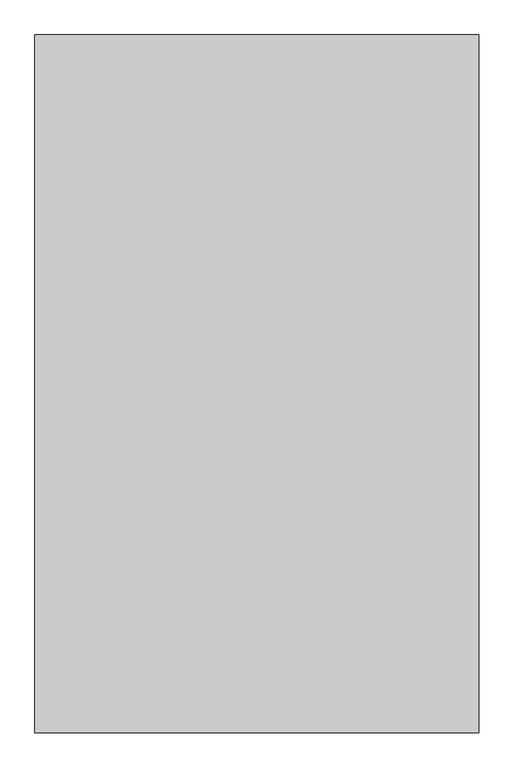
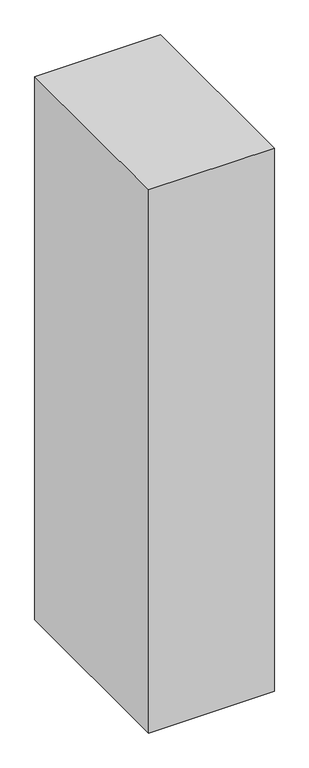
"""IFC4 building model written with IfcOpenShell, lengths in millimetres: column geometry, M_混凝土-矩形-柱 : RC柱70*110."""

from ifc_helpers import new_model, si_unit, frame, origin, place, context, project, spatial, polyline, outline, extrude, source, transform, mapped, element, save


def column_993dc5b7(model_context):
    return source(origin(), model_context, "Body", "SweptSolid", [
        extrude(outline(polyline([(350.0, 550.0), (350.0, -550.0), (-350.0, -550.0), (-350.0, 550.0), (350.0, 550.0)])), frame((0.0, 0.0, 8000.0), z_axis=(0.0, 0.0, 1.0), x_axis=(1.0, 0.0, 0.0)), (0.0, 0.0, 1.0), 3200.0),
    ])


if __name__ == "__main__":
    model = new_model("IFC4")
    model_context = context("Model", 3, world=origin())
    ifc_project = project(units=[si_unit("LENGTHUNIT", "METRE", prefix="MILLI")], contexts=[model_context])
    site = spatial("IfcSite", under=ifc_project)
    building = spatial("IfcBuilding", under=site)
    placement = place(None, origin())
    column_shape = column_993dc5b7(model_context)
    element("IfcColumn", 1, ObjectType="M_混凝土-矩形-柱 : RC柱70*110", at=placement, inside=building, context=model_context, shape_type="MappedRepresentation", body=[
        mapped(column_shape, transform((0.0, 0.0, 0.0), x_axis=(1.0, 0.0, 0.0), y_axis=(0.0, 1.0, 0.0), z_axis=(0.0, 0.0, 1.0))),
    ])
    save(model, "model.ifc")
